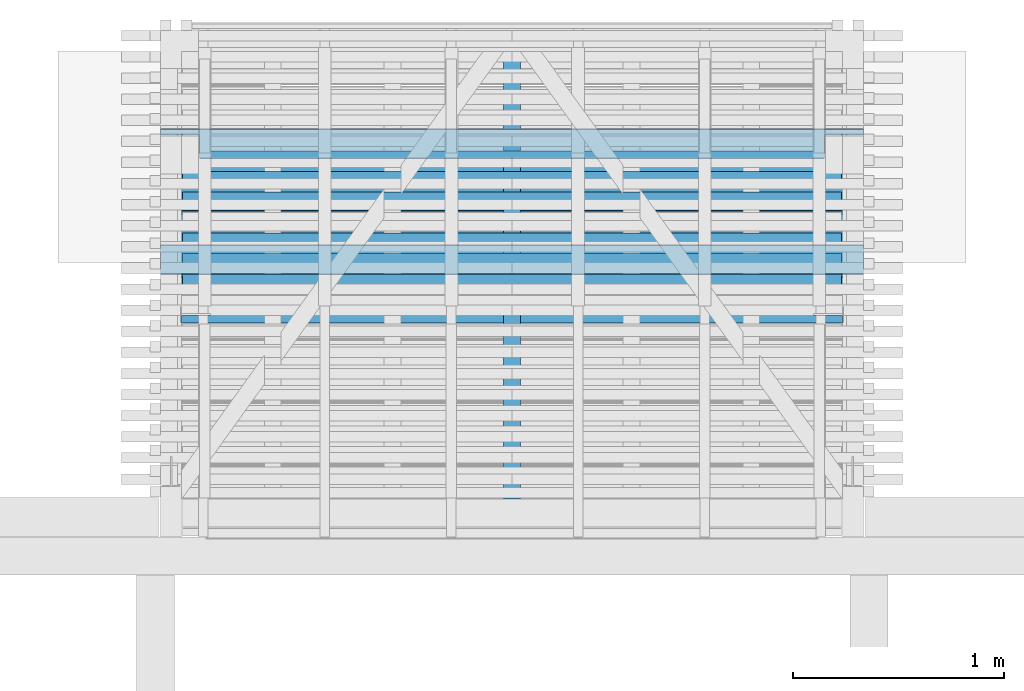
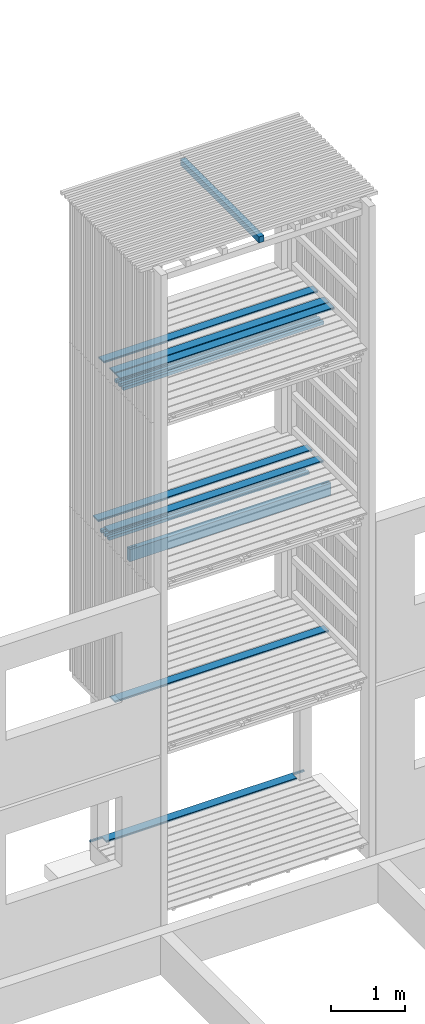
# One storey, part 45 of 182: 15 beams.
"""IFC2X3 building model written with IfcOpenShell, lengths in metres."""

from ifc_helpers import new_model, si_unit, frame, origin, place, context, project, spatial, faceted_brep, element, save


model = new_model("IFC2X3")

# Units and contexts
model_context = context("Model", 3, precision=1e-06, world=origin())
ifc_project = project(units=[si_unit("LENGTHUNIT", "METRE"), si_unit("PLANEANGLEUNIT", "RADIAN")], contexts=[model_context])

# Site, building, storey
site = spatial("IfcSite", under=ifc_project, CompositionType="ELEMENT")
building = spatial("IfcBuilding", under=site, CompositionType="ELEMENT")
storey = spatial("IfcBuildingStorey", under=building, Name="vs", CompositionType="ELEMENT", Elevation=-0.85)

# Beams
placement = place(None, origin())
beam_1_placement = place(placement, frame((16.549197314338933, 11.886327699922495, 7.86739999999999), z_axis=(0.0, 0.0, 1.0), x_axis=(-1.0, 0.0, 0.0)))
element("IfcBeam", 1, at=beam_1_placement, inside=storey, Name="Bardage", context=model_context, shape_type="Brep", body=[
    faceted_brep([(3.120000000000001, 0.024999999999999, -0.024999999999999), (3.120000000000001, 0.024999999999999, 0.025000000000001), (3.120000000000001, -0.024999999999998, 0.025000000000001), (3.120000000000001, -0.024999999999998, -0.024999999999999), (-3e-15, -0.025000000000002, -0.024999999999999), (-3e-15, -0.025000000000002, 0.025000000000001), (-3e-15, 0.024999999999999, 0.025000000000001), (-3e-15, 0.024999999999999, -0.024999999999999), (-3e-15, 0.024999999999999, -0.024999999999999), (-3e-15, 0.024999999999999, 0.025000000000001), (3.120000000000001, 0.024999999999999, 0.025000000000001), (3.120000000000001, 0.024999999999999, -0.024999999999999), (-3e-15, 0.024999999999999, 0.025000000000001), (-3e-15, -0.025000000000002, 0.025000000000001), (3.120000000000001, -0.024999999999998, 0.025000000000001), (3.120000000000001, 0.024999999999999, 0.025000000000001), (-3e-15, -0.025000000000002, 0.025000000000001), (-3e-15, -0.025000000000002, -0.024999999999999), (3.120000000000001, -0.024999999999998, -0.024999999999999), (3.120000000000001, -0.024999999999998, 0.025000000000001), (-3e-15, -0.025000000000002, -0.024999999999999), (-3e-15, 0.024999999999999, -0.024999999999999), (3.120000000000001, 0.024999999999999, -0.024999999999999), (3.120000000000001, -0.024999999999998, -0.024999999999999)], [[[0, 1, 2, 3]], [[4, 5, 6, 7]], [[8, 9, 10, 11]], [[12, 13, 14, 15]], [[16, 17, 18, 19]], [[20, 21, 22, 23]]]),
])
beam_2_placement = place(placement, frame((16.549197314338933, 12.080494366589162, 5.167399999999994), z_axis=(0.0, 0.0, 1.0), x_axis=(-1.0, 0.0, 0.0)))
element("IfcBeam", 2, at=beam_2_placement, inside=storey, Name="Bardage", context=model_context, shape_type="Brep", body=[
    faceted_brep([(3.120000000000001, 0.024999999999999, -0.024999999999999), (3.120000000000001, 0.024999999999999, 0.024999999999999), (3.120000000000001, -0.024999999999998, 0.024999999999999), (3.120000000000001, -0.024999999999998, -0.024999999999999), (-3e-15, -0.025000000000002, -0.024999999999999), (-3e-15, -0.025000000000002, 0.024999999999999), (-3e-15, 0.024999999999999, 0.024999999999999), (-3e-15, 0.024999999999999, -0.024999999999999), (-3e-15, 0.024999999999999, -0.024999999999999), (-3e-15, 0.024999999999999, 0.024999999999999), (3.120000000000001, 0.024999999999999, 0.024999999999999), (3.120000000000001, 0.024999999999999, -0.024999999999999), (-3e-15, 0.024999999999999, 0.024999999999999), (-3e-15, -0.025000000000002, 0.024999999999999), (3.120000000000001, -0.024999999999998, 0.024999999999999), (3.120000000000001, 0.024999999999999, 0.024999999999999), (-3e-15, -0.025000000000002, 0.024999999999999), (-3e-15, -0.025000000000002, -0.024999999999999), (3.120000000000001, -0.024999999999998, -0.024999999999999), (3.120000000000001, -0.024999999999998, 0.024999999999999), (-3e-15, -0.025000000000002, -0.024999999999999), (-3e-15, 0.024999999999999, -0.024999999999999), (3.120000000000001, 0.024999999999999, -0.024999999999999), (3.120000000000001, -0.024999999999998, -0.024999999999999)], [[[0, 1, 2, 3]], [[4, 5, 6, 7]], [[8, 9, 10, 11]], [[12, 13, 14, 15]], [[16, 17, 18, 19]], [[20, 21, 22, 23]]]),
])
beam_3_placement = place(placement, frame((16.654197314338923, 11.784577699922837, 2.733499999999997), z_axis=(0.0, 0.0, 1.0), x_axis=(-1.0, -8e-15, 0.0)))
element("IfcBeam", 3, at=beam_3_placement, inside=storey, Name="Caillebotis", context=model_context, shape_type="Brep", body=[
    faceted_brep([(3.329999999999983, -0.072500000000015, -0.0135), (3.329999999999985, 0.072499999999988, -0.0135), (3.329999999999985, 0.072499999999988, 0.0085), (3.329999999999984, 0.067499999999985, 0.0135), (3.329999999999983, -0.067500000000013, 0.0135), (3.329999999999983, -0.072500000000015, 0.008500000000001), (-1.5e-14, -0.072499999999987, 0.008500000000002), (-1.5e-14, -0.067499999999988, 0.0135), (-1.4e-14, 0.067500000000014, 0.013500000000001), (-1.4e-14, 0.072500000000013, 0.0085), (-1.4e-14, 0.072500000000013, -0.0135), (-1.5e-14, -0.072499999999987, -0.0135), (3.329999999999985, 0.072499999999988, 0.0085), (3.329999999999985, 0.072499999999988, -0.0135), (-1.4e-14, 0.072500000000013, -0.0135), (-1.4e-14, 0.072500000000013, 0.0085), (3.329999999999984, 0.067499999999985, 0.0135), (3.329999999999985, 0.072499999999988, 0.0085), (-1.4e-14, 0.072500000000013, 0.0085), (-1.4e-14, 0.067500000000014, 0.013500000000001), (3.329999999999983, -0.067500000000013, 0.0135), (3.329999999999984, 0.067499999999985, 0.0135), (-1.4e-14, 0.067500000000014, 0.013500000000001), (-1.5e-14, -0.067499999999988, 0.0135), (3.329999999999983, -0.072500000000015, 0.008500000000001), (3.329999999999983, -0.067500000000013, 0.0135), (-1.5e-14, -0.067499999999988, 0.0135), (-1.5e-14, -0.072499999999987, 0.008500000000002), (3.329999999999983, -0.072500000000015, -0.0135), (3.329999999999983, -0.072500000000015, 0.008500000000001), (-1.5e-14, -0.072499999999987, 0.008500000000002), (-1.5e-14, -0.072499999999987, -0.0135), (-1.4e-14, 0.072500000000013, -0.0135), (3.329999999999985, 0.072499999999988, -0.0135), (3.329999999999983, -0.072500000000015, -0.0135), (-1.5e-14, -0.072499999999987, -0.0135)], [[[0, 1, 2, 3, 4, 5]], [[6, 7, 8, 9, 10, 11]], [[12, 13, 14, 15]], [[16, 17, 18, 19]], [[20, 21, 22, 23]], [[24, 25, 26, 27]], [[28, 29, 30, 31]], [[32, 33, 34, 35]]]),
])
beam_4_placement = place(placement, frame((16.654197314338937, 11.784577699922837, 8.13349999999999), z_axis=(0.0, 0.0, 1.0), x_axis=(-1.0, -8e-15, 0.0)))
element("IfcBeam", 4, at=beam_4_placement, inside=storey, Name="Caillebotis", context=model_context, shape_type="Brep", body=[
    faceted_brep([(3.329999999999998, -0.072500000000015, -0.013500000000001), (3.329999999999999, 0.072499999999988, -0.013500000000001), (3.329999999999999, 0.072499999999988, 0.008499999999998), (3.329999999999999, 0.067499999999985, 0.013499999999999), (3.329999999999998, -0.067500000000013, 0.013499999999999), (3.329999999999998, -0.072500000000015, 0.0085), (-1e-15, -0.072499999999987, 0.0085), (-1e-15, -0.067499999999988, 0.013499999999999), (1e-15, 0.067500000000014, 0.013499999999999), (1e-15, 0.072500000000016, 0.008499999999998), (1e-15, 0.072500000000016, -0.013500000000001), (-1e-15, -0.072499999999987, -0.013500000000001), (3.329999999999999, 0.072499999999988, 0.008499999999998), (3.329999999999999, 0.072499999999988, -0.013500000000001), (1e-15, 0.072500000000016, -0.013500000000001), (1e-15, 0.072500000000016, 0.008499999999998), (3.329999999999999, 0.067499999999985, 0.013499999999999), (3.329999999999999, 0.072499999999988, 0.008499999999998), (1e-15, 0.072500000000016, 0.008499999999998), (1e-15, 0.067500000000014, 0.013499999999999), (3.329999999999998, -0.067500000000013, 0.013499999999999), (3.329999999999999, 0.067499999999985, 0.013499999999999), (1e-15, 0.067500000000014, 0.013499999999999), (-1e-15, -0.067499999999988, 0.013499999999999), (3.329999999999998, -0.072500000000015, 0.0085), (3.329999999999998, -0.067500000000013, 0.013499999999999), (-1e-15, -0.067499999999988, 0.013499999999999), (-1e-15, -0.072499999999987, 0.0085), (3.329999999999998, -0.072500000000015, -0.013500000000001), (3.329999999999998, -0.072500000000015, 0.0085), (-1e-15, -0.072499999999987, 0.0085), (-1e-15, -0.072499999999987, -0.013500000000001), (1e-15, 0.072500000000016, -0.013500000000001), (3.329999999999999, 0.072499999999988, -0.013500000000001), (3.329999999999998, -0.072500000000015, -0.013500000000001), (-1e-15, -0.072499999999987, -0.013500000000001)], [[[0, 1, 2, 3, 4, 5]], [[6, 7, 8, 9, 10, 11]], [[12, 13, 14, 15]], [[16, 17, 18, 19]], [[20, 21, 22, 23]], [[24, 25, 26, 27]], [[28, 29, 30, 31]], [[32, 33, 34, 35]]]),
])
beam_5_placement = place(placement, frame((16.55419731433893, 11.5250776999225, 5.239999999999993), z_axis=(0.0, 0.0, 1.0), x_axis=(-1.0, -2e-15, 0.0)))
element("IfcBeam", 5, at=beam_5_placement, inside=storey, Name="Sommier", context=model_context, shape_type="Brep", body=[
    faceted_brep([(0.137000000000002, -0.003999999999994, -0.100000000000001), (1e-15, -0.003999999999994, -0.100000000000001), (1e-15, -0.003999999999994, 0.100000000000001), (0.137000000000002, -0.003999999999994, 0.100000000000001), (0.137000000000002, 0.004000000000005, -0.100000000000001), (0.137000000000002, -0.003999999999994, -0.100000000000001), (0.137000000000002, -0.003999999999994, 0.100000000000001), (0.137000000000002, 0.004000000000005, 0.100000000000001), (1e-15, 0.004000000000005, -0.100000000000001), (0.137000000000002, 0.004000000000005, -0.100000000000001), (0.137000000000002, 0.004000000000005, 0.100000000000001), (1e-15, 0.004000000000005, 0.100000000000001), (1e-15, -0.003999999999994, 0.100000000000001), (1e-15, -0.003999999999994, -0.100000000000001), (1e-15, -0.039999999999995, -0.100000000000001), (1e-15, -0.039999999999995, 0.100000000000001), (1e-15, 0.040000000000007, 0.100000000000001), (1e-15, 0.040000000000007, -0.100000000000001), (1e-15, 0.004000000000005, -0.100000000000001), (1e-15, 0.004000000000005, 0.100000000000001), (2.992999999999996, 0.004000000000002, 0.100000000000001), (2.992999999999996, 0.004000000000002, -0.100000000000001), (3.129999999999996, 0.004000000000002, -0.1), (3.129999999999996, 0.004000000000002, 0.100000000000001), (2.992999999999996, -0.004000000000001, 0.100000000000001), (2.992999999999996, -0.004000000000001, -0.100000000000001), (2.992999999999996, 0.004000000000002, -0.100000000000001), (2.992999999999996, 0.004000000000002, 0.100000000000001), (3.129999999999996, -0.004000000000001, 0.100000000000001), (3.129999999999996, -0.004000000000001, -0.100000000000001), (2.992999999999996, -0.004000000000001, -0.100000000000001), (2.992999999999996, -0.004000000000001, 0.100000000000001), (3.129999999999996, 0.004000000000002, 0.100000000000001), (3.129999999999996, 0.004000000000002, -0.1), (3.129999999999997, 0.04, -0.1), (3.129999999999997, 0.04, 0.100000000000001), (3.129999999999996, -0.040000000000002, 0.100000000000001), (3.129999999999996, -0.040000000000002, -0.1), (3.129999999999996, -0.004000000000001, -0.100000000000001), (3.129999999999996, -0.004000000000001, 0.100000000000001), (2.992999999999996, 0.004000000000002, 0.100000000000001), (3.129999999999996, 0.004000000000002, 0.100000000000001), (3.129999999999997, 0.04, 0.100000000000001), (1e-15, 0.040000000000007, 0.100000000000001), (1e-15, 0.004000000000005, 0.100000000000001), (0.137000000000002, 0.004000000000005, 0.100000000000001), (0.137000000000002, -0.003999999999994, 0.100000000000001), (1e-15, -0.003999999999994, 0.100000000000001), (1e-15, -0.039999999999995, 0.100000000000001), (3.129999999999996, -0.040000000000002, 0.100000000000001), (3.129999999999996, -0.004000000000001, 0.100000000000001), (2.992999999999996, -0.004000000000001, 0.100000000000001), (1e-15, -0.039999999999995, -0.100000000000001), (1e-15, -0.003999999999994, -0.100000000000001), (0.137000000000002, -0.003999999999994, -0.100000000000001), (0.137000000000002, 0.004000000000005, -0.100000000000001), (1e-15, 0.004000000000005, -0.100000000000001), (1e-15, 0.040000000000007, -0.100000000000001), (3.129999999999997, 0.04, -0.1), (3.129999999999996, 0.004000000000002, -0.1), (2.992999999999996, 0.004000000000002, -0.100000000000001), (2.992999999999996, -0.004000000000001, -0.100000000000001), (3.129999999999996, -0.004000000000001, -0.100000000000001), (3.129999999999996, -0.040000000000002, -0.1), (1e-15, -0.039999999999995, -0.100000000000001), (3.129999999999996, -0.040000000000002, -0.1), (3.129999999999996, -0.040000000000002, 0.100000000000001), (1e-15, -0.039999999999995, 0.100000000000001), (1e-15, 0.040000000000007, 0.100000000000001), (3.129999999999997, 0.04, 0.100000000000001), (3.129999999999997, 0.04, -0.1), (1e-15, 0.040000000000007, -0.100000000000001)], [[[0, 1, 2, 3]], [[4, 5, 6, 7]], [[8, 9, 10, 11]], [[12, 13, 14, 15]], [[16, 17, 18, 19]], [[20, 21, 22, 23]], [[24, 25, 26, 27]], [[28, 29, 30, 31]], [[32, 33, 34, 35]], [[36, 37, 38, 39]], [[40, 41, 42, 43, 44, 45, 46, 47, 48, 49, 50, 51]], [[52, 53, 54, 55, 56, 57, 58, 59, 60, 61, 62, 63]], [[64, 65, 66, 67]], [[68, 69, 70, 71]]]),
])
beam_6_placement = place(placement, frame((16.654197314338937, 12.084577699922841, 8.133499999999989), z_axis=(0.0, 0.0, 1.0), x_axis=(-1.0, -1e-14, 0.0)))
element("IfcBeam", 6, at=beam_6_placement, inside=storey, Name="Caillebotis", context=model_context, shape_type="Brep", body=[
    faceted_brep([(3.329999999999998, -0.072500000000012, -0.013499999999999), (3.329999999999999, 0.072499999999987, -0.013499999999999), (3.329999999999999, 0.072499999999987, 0.0085), (3.329999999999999, 0.067499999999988, 0.013500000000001), (3.329999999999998, -0.067500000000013, 0.013500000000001), (3.329999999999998, -0.072500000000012, 0.008500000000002), (-1e-15, -0.07249999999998, 0.008500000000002), (-1e-15, -0.067499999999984, 0.013500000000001), (1e-15, 0.067500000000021, 0.013500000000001), (1e-15, 0.072500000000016, 0.0085), (1e-15, 0.072500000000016, -0.013499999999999), (-1e-15, -0.07249999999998, -0.013499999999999), (3.329999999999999, 0.072499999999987, 0.0085), (3.329999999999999, 0.072499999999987, -0.013499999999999), (1e-15, 0.072500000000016, -0.013499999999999), (1e-15, 0.072500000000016, 0.0085), (3.329999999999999, 0.067499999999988, 0.013500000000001), (3.329999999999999, 0.072499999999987, 0.0085), (1e-15, 0.072500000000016, 0.0085), (1e-15, 0.067500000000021, 0.013500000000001), (3.329999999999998, -0.067500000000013, 0.013500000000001), (3.329999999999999, 0.067499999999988, 0.013500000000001), (1e-15, 0.067500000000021, 0.013500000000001), (-1e-15, -0.067499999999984, 0.013500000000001), (3.329999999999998, -0.072500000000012, 0.008500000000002), (3.329999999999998, -0.067500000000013, 0.013500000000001), (-1e-15, -0.067499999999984, 0.013500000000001), (-1e-15, -0.07249999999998, 0.008500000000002), (3.329999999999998, -0.072500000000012, -0.013499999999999), (3.329999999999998, -0.072500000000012, 0.008500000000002), (-1e-15, -0.07249999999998, 0.008500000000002), (-1e-15, -0.07249999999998, -0.013499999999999), (1e-15, 0.072500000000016, -0.013499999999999), (3.329999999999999, 0.072499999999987, -0.013499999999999), (3.329999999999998, -0.072500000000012, -0.013499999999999), (-1e-15, -0.07249999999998, -0.013499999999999)], [[[0, 1, 2, 3, 4, 5]], [[6, 7, 8, 9, 10, 11]], [[12, 13, 14, 15]], [[16, 17, 18, 19]], [[20, 21, 22, 23]], [[24, 25, 26, 27]], [[28, 29, 30, 31]], [[32, 33, 34, 35]]]),
])
beam_7_placement = place(placement, frame((16.654197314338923, 12.334577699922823, 0.033500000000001), z_axis=(0.0, 0.0, 1.0), x_axis=(-1.0, 0.0, 0.0)))
element("IfcBeam", 7, at=beam_7_placement, inside=storey, Name="Caillebotis", context=model_context, shape_type="Brep", body=[
    faceted_brep([(0.0, -0.072500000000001, -0.013500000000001), (0.0, -0.072500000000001, 0.008500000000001), (0.0, -0.067500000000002, 0.0135), (0.0, -0.040499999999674, 0.0135), (0.0, -0.040499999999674, -0.013500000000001), (3.329999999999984, -0.067500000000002, 0.0135), (3.329999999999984, -0.040499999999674, 0.0135), (3.144999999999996, -0.040499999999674, 0.0135), (3.144999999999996, 0.067500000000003, 0.0135), (0.184999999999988, 0.067499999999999, 0.0135), (0.184999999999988, -0.040499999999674, 0.0135), (0.0, -0.040499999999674, 0.0135), (0.0, -0.067500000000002, 0.0135), (0.184999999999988, -0.040499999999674, 0.0135), (0.184999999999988, 0.067499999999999, 0.0135), (0.184999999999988, 0.072499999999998, 0.0085), (0.184999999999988, 0.072499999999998, -0.013500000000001), (0.184999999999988, -0.040499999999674, -0.013500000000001), (3.329999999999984, -0.072499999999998, 0.008500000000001), (3.329999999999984, -0.072499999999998, -0.013500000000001), (3.329999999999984, -0.040499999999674, -0.013500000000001), (3.329999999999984, -0.040499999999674, 0.0135), (3.329999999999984, -0.067500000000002, 0.0135), (3.144999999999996, 0.072499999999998, 0.0085), (3.144999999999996, 0.067500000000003, 0.0135), (3.144999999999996, -0.040499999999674, 0.0135), (3.144999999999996, -0.040499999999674, -0.013500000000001), (3.144999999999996, 0.072500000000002, -0.013500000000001), (3.144999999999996, -0.040499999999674, -0.013500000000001), (3.144999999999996, -0.040499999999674, 0.0135), (3.329999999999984, -0.040499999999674, 0.0135), (3.329999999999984, -0.040499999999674, -0.013500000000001), (0.184999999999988, 0.072499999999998, -0.013500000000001), (0.184999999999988, 0.072499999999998, 0.0085), (3.144999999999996, 0.072499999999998, 0.0085), (3.144999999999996, 0.072500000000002, -0.013500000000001), (0.184999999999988, 0.072499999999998, 0.0085), (0.184999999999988, 0.067499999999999, 0.0135), (3.144999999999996, 0.067500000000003, 0.0135), (3.144999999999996, 0.072499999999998, 0.0085), (3.329999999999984, -0.072499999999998, 0.008500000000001), (3.329999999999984, -0.067500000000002, 0.0135), (0.0, -0.067500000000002, 0.0135), (0.0, -0.072500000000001, 0.008500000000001), (3.329999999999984, -0.072499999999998, -0.013500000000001), (3.329999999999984, -0.072499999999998, 0.008500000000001), (0.0, -0.072500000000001, 0.008500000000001), (0.0, -0.072500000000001, -0.013500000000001), (0.184999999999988, -0.040499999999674, -0.013500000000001), (0.184999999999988, 0.072499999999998, -0.013500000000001), (3.144999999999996, 0.072500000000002, -0.013500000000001), (3.144999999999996, -0.040499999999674, -0.013500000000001), (3.329999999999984, -0.040499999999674, -0.013500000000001), (3.329999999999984, -0.072499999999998, -0.013500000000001), (0.0, -0.072500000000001, -0.013500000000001), (0.0, -0.040499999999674, -0.013500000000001), (0.0, -0.040499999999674, 0.0135), (0.184999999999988, -0.040499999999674, 0.0135), (0.184999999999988, -0.040499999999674, -0.013500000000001), (0.0, -0.040499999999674, -0.013500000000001)], [[[0, 1, 2, 3, 4]], [[5, 6, 7, 8, 9, 10, 11, 12]], [[13, 14, 15, 16, 17]], [[18, 19, 20, 21, 22]], [[23, 24, 25, 26, 27]], [[28, 29, 30, 31]], [[32, 33, 34, 35]], [[36, 37, 38, 39]], [[40, 41, 42, 43]], [[44, 45, 46, 47]], [[48, 49, 50, 51, 52, 53, 54, 55]], [[56, 57, 58, 59]]]),
])
beam_8_placement = place(placement, frame((14.989197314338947, 10.650077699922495, 10.404999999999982), z_axis=(0.0, 0.0, 1.0), x_axis=(0.0, 1.0, 0.0)))
element("IfcBeam", 8, at=beam_8_placement, inside=storey, Name="Support bardage", context=model_context, shape_type="Brep", body=[
    faceted_brep([(2.120000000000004, -0.039999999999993, 0.050000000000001), (2.120000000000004, 0.040000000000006, 0.050000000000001), (3e-15, 0.040000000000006, 0.050000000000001), (3e-15, -0.039999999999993, 0.050000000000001), (3e-15, 0.040000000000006, 0.050000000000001), (2.120000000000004, 0.040000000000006, 0.050000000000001), (2.120000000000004, 0.040000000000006, -0.050000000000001), (3e-15, 0.040000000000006, -0.050000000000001), (2.120000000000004, 0.040000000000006, 0.050000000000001), (2.120000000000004, -0.039999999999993, 0.050000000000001), (2.120000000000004, -0.039999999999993, -0.050000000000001), (2.120000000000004, 0.040000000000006, -0.050000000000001), (2.120000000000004, -0.039999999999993, -0.050000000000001), (2.120000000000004, -0.039999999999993, 0.050000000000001), (3e-15, -0.039999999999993, 0.050000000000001), (3e-15, -0.039999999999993, -0.050000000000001), (3e-15, 0.040000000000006, -0.050000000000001), (2.120000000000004, 0.040000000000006, -0.050000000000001), (2.120000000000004, -0.039999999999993, -0.050000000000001), (3e-15, -0.039999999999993, -0.050000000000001), (3e-15, 0.040000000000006, 0.050000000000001), (3e-15, 0.040000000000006, -0.050000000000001), (3e-15, -0.039999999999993, -0.050000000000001), (3e-15, -0.039999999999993, 0.050000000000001)], [[[0, 1, 2, 3]], [[4, 5, 6, 7]], [[8, 9, 10, 11]], [[12, 13, 14, 15]], [[16, 17, 18, 19]], [[20, 21, 22, 23]]]),
])
beam_9_placement = place(placement, frame((16.549197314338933, 11.789244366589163, 7.86739999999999), z_axis=(0.0, 0.0, 1.0), x_axis=(-1.0, 0.0, 0.0)))
element("IfcBeam", 9, at=beam_9_placement, inside=storey, Name="Bardage", context=model_context, shape_type="Brep", body=[
    faceted_brep([(3.120000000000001, 0.025000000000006, -0.024999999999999), (3.120000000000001, 0.025000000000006, 0.025000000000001), (3.120000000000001, -0.024999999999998, 0.025000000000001), (3.120000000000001, -0.024999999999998, -0.024999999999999), (-3e-15, -0.024999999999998, -0.024999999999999), (-3e-15, -0.024999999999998, 0.025000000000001), (-3e-15, 0.025000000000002, 0.025000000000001), (-3e-15, 0.025000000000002, -0.024999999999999), (-3e-15, 0.025000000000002, -0.024999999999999), (-3e-15, 0.025000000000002, 0.025000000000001), (3.120000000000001, 0.025000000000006, 0.025000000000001), (3.120000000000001, 0.025000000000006, -0.024999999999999), (-3e-15, 0.025000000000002, 0.025000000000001), (-3e-15, -0.024999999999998, 0.025000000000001), (3.120000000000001, -0.024999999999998, 0.025000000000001), (3.120000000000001, 0.025000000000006, 0.025000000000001), (-3e-15, -0.024999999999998, 0.025000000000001), (-3e-15, -0.024999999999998, -0.024999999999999), (3.120000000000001, -0.024999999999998, -0.024999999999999), (3.120000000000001, -0.024999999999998, 0.025000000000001), (-3e-15, -0.024999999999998, -0.024999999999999), (-3e-15, 0.025000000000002, -0.024999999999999), (3.120000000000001, 0.025000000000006, -0.024999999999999), (3.120000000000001, -0.024999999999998, -0.024999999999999)], [[[0, 1, 2, 3]], [[4, 5, 6, 7]], [[8, 9, 10, 11]], [[12, 13, 14, 15]], [[16, 17, 18, 19]], [[20, 21, 22, 23]]]),
])
beam_10_placement = place(placement, frame((16.654197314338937, 12.23457769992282, 5.433499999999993), z_axis=(0.0, 0.0, 1.0), x_axis=(-1.0, 0.0, 0.0)))
element("IfcBeam", 10, at=beam_10_placement, inside=storey, Name="Caillebotis", context=model_context, shape_type="Brep", body=[
    faceted_brep([(3.329999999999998, -0.072499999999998, -0.0135), (3.329999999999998, 0.072499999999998, -0.0135), (3.329999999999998, 0.072499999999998, 0.0085), (3.329999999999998, 0.067500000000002, 0.0135), (3.329999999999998, -0.067500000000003, 0.0135), (3.329999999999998, -0.072499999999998, 0.008500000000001), (0.0, -0.072500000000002, 0.008500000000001), (0.0, -0.067500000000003, 0.0135), (0.0, 0.067499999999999, 0.0135), (0.0, 0.072499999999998, 0.0085), (0.0, 0.072499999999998, -0.0135), (0.0, -0.072500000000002, -0.0135), (3.329999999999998, 0.072499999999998, 0.0085), (3.329999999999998, 0.072499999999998, -0.0135), (0.0, 0.072499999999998, -0.0135), (0.0, 0.072499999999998, 0.0085), (3.329999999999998, 0.067500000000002, 0.0135), (3.329999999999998, 0.072499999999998, 0.0085), (0.0, 0.072499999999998, 0.0085), (0.0, 0.067499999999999, 0.0135), (3.329999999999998, -0.067500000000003, 0.0135), (3.329999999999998, 0.067500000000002, 0.0135), (0.0, 0.067499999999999, 0.0135), (0.0, -0.067500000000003, 0.0135), (3.329999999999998, -0.072499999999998, 0.008500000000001), (3.329999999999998, -0.067500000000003, 0.0135), (0.0, -0.067500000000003, 0.0135), (0.0, -0.072500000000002, 0.008500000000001), (3.329999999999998, -0.072499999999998, -0.0135), (3.329999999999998, -0.072499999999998, 0.008500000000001), (0.0, -0.072500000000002, 0.008500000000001), (0.0, -0.072500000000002, -0.0135), (0.0, 0.072499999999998, -0.0135), (3.329999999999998, 0.072499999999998, -0.0135), (3.329999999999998, -0.072499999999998, -0.0135), (0.0, -0.072500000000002, -0.0135)], [[[0, 1, 2, 3, 4, 5]], [[6, 7, 8, 9, 10, 11]], [[12, 13, 14, 15]], [[16, 17, 18, 19]], [[20, 21, 22, 23]], [[24, 25, 26, 27]], [[28, 29, 30, 31]], [[32, 33, 34, 35]]]),
])
beam_11_placement = place(placement, frame((16.549197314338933, 12.27466103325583, 5.167399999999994), z_axis=(0.0, 0.0, 1.0), x_axis=(-1.0, 0.0, 0.0)))
element("IfcBeam", 11, at=beam_11_placement, inside=storey, Name="Bardage", context=model_context, shape_type="Brep", body=[
    faceted_brep([(3.120000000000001, 0.024999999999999, 0.024999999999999), (3.120000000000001, -0.024999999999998, 0.024999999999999), (3.120000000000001, -0.024999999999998, -0.024999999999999), (3.120000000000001, 0.024999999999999, -0.024999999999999), (-3e-15, -0.025000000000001, 0.024999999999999), (-3e-15, 0.024999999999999, 0.024999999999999), (-3e-15, 0.024999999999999, -0.024999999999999), (-3e-15, -0.025000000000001, -0.024999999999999), (3.120000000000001, 0.024999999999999, -0.024999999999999), (3.120000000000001, -0.024999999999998, -0.024999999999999), (-3e-15, -0.025000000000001, -0.024999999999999), (-3e-15, 0.024999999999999, -0.024999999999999), (-3e-15, -0.025000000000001, -0.024999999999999), (3.120000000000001, -0.024999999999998, -0.024999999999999), (3.120000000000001, -0.024999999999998, 0.024999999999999), (-3e-15, -0.025000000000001, 0.024999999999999), (-3e-15, -0.025000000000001, 0.024999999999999), (3.120000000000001, -0.024999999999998, 0.024999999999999), (3.120000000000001, 0.024999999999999, 0.024999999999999), (-3e-15, 0.024999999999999, 0.024999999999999), (-3e-15, 0.024999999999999, 0.024999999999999), (3.120000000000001, 0.024999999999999, 0.024999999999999), (3.120000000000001, 0.024999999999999, -0.024999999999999), (-3e-15, 0.024999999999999, -0.024999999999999)], [[[0, 1, 2, 3]], [[4, 5, 6, 7]], [[8, 9, 10, 11]], [[12, 13, 14, 15]], [[16, 17, 18, 19]], [[20, 21, 22, 23]]]),
])
beam_12_placement = place(placement, frame((16.549197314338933, 11.692161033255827, 7.86739999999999), z_axis=(0.0, 0.0, 1.0), x_axis=(-1.0, 0.0, 0.0)))
element("IfcBeam", 12, at=beam_12_placement, inside=storey, Name="Bardage", context=model_context, shape_type="Brep", body=[
    faceted_brep([(3.120000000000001, 0.024999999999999, -0.024999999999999), (3.120000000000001, 0.024999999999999, 0.025000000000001), (3.120000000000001, -0.024999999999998, 0.025000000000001), (3.120000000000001, -0.024999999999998, -0.024999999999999), (-3e-15, -0.025000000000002, -0.024999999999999), (-3e-15, -0.025000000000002, 0.025000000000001), (-3e-15, 0.024999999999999, 0.025000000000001), (-3e-15, 0.024999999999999, -0.024999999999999), (-3e-15, 0.024999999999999, -0.024999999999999), (-3e-15, 0.024999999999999, 0.025000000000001), (3.120000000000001, 0.024999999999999, 0.025000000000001), (3.120000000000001, 0.024999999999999, -0.024999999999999), (-3e-15, 0.024999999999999, 0.025000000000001), (-3e-15, -0.025000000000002, 0.025000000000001), (3.120000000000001, -0.024999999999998, 0.025000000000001), (3.120000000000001, 0.024999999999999, 0.025000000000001), (-3e-15, -0.025000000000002, 0.025000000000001), (-3e-15, -0.025000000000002, -0.024999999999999), (3.120000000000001, -0.024999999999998, -0.024999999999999), (3.120000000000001, -0.024999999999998, 0.025000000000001), (-3e-15, -0.025000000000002, -0.024999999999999), (-3e-15, 0.024999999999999, -0.024999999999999), (3.120000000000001, 0.024999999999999, -0.024999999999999), (3.120000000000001, -0.024999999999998, -0.024999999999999)], [[[0, 1, 2, 3]], [[4, 5, 6, 7]], [[8, 9, 10, 11]], [[12, 13, 14, 15]], [[16, 17, 18, 19]], [[20, 21, 22, 23]]]),
])
beam_13_placement = place(placement, frame((16.654197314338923, 11.934577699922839, 5.433499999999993), z_axis=(0.0, 0.0, 1.0), x_axis=(-1.0, -8e-15, 0.0)))
element("IfcBeam", 13, at=beam_13_placement, inside=storey, Name="Caillebotis", context=model_context, shape_type="Brep", body=[
    faceted_brep([(3.329999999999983, -0.072500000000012, -0.0135), (3.329999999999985, 0.072499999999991, -0.0135), (3.329999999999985, 0.072499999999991, 0.0085), (3.329999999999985, 0.067499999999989, 0.0135), (3.329999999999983, -0.067500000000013, 0.0135), (3.329999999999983, -0.072500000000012, 0.008500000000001), (-1.5e-14, -0.072499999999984, 0.008500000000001), (-1.5e-14, -0.067499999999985, 0.0135), (-1.4e-14, 0.067500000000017, 0.0135), (-1.4e-14, 0.072500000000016, 0.0085), (-1.4e-14, 0.072500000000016, -0.0135), (-1.5e-14, -0.072499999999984, -0.0135), (3.329999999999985, 0.072499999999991, 0.0085), (3.329999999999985, 0.072499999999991, -0.0135), (-1.4e-14, 0.072500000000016, -0.0135), (-1.4e-14, 0.072500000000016, 0.0085), (3.329999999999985, 0.067499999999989, 0.0135), (3.329999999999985, 0.072499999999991, 0.0085), (-1.4e-14, 0.072500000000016, 0.0085), (-1.4e-14, 0.067500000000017, 0.0135), (3.329999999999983, -0.067500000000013, 0.0135), (3.329999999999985, 0.067499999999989, 0.0135), (-1.4e-14, 0.067500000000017, 0.0135), (-1.5e-14, -0.067499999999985, 0.0135), (3.329999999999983, -0.072500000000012, 0.008500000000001), (3.329999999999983, -0.067500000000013, 0.0135), (-1.5e-14, -0.067499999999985, 0.0135), (-1.5e-14, -0.072499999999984, 0.008500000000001), (3.329999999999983, -0.072500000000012, -0.0135), (3.329999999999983, -0.072500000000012, 0.008500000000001), (-1.5e-14, -0.072499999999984, 0.008500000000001), (-1.5e-14, -0.072499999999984, -0.0135), (-1.4e-14, 0.072500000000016, -0.0135), (3.329999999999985, 0.072499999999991, -0.0135), (3.329999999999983, -0.072500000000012, -0.0135), (-1.5e-14, -0.072499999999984, -0.0135)], [[[0, 1, 2, 3, 4, 5]], [[6, 7, 8, 9, 10, 11]], [[12, 13, 14, 15]], [[16, 17, 18, 19]], [[20, 21, 22, 23]], [[24, 25, 26, 27]], [[28, 29, 30, 31]], [[32, 33, 34, 35]]]),
])
beam_14_placement = place(placement, frame((16.549197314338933, 12.1775776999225, 5.167399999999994), z_axis=(0.0, 0.0, 1.0), x_axis=(-1.0, -1e-15, 0.0)))
element("IfcBeam", 14, at=beam_14_placement, inside=storey, Name="Bardage", context=model_context, shape_type="Brep", body=[
    faceted_brep([(3.120000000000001, 0.024999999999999, 0.024999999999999), (3.120000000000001, -0.025000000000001, 0.024999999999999), (3.120000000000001, -0.025000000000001, -0.024999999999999), (3.120000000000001, 0.024999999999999, -0.024999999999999), (-3e-15, -0.024999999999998, 0.024999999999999), (-3e-15, 0.025000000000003, 0.024999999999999), (-3e-15, 0.025000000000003, -0.024999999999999), (-3e-15, -0.024999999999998, -0.024999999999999), (-3e-15, -0.024999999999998, -0.024999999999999), (-3e-15, 0.025000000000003, -0.024999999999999), (3.120000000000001, 0.024999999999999, -0.024999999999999), (3.120000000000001, -0.025000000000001, -0.024999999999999), (-3e-15, -0.024999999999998, -0.024999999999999), (3.120000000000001, -0.025000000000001, -0.024999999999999), (3.120000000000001, -0.025000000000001, 0.024999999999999), (-3e-15, -0.024999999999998, 0.024999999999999), (3.120000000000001, 0.024999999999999, 0.024999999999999), (3.120000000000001, 0.024999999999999, -0.024999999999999), (-3e-15, 0.025000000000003, -0.024999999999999), (-3e-15, 0.025000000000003, 0.024999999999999), (3.120000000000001, 0.024999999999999, 0.024999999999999), (-3e-15, 0.025000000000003, 0.024999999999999), (-3e-15, -0.024999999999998, 0.024999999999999), (3.120000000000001, -0.025000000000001, 0.024999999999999)], [[[0, 1, 2, 3]], [[4, 5, 6, 7]], [[8, 9, 10, 11]], [[12, 13, 14, 15]], [[16, 17, 18, 19]], [[20, 21, 22, 23]]]),
])
beam_15_placement = place(placement, frame((16.654197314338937, 11.634577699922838, 8.13349999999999), z_axis=(0.0, 0.0, 1.0), x_axis=(-1.0, -1e-14, 0.0)))
element("IfcBeam", 15, at=beam_15_placement, inside=storey, Name="Caillebotis", context=model_context, shape_type="Brep", body=[
    faceted_brep([(3.329999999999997, -0.072500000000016, -0.013500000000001), (3.329999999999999, 0.072499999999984, -0.013500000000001), (3.329999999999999, 0.072499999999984, 0.008499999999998), (3.329999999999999, 0.067499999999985, 0.013499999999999), (3.329999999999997, -0.067500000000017, 0.013499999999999), (3.329999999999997, -0.072500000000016, 0.0085), (-1e-15, -0.072499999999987, 0.0085), (-1e-15, -0.067499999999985, 0.013499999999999), (1e-15, 0.067500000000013, 0.013499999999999), (1e-15, 0.072500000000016, 0.008499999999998), (1e-15, 0.072500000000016, -0.013500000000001), (-1e-15, -0.072499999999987, -0.013500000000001), (3.329999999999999, 0.072499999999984, 0.008499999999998), (3.329999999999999, 0.072499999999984, -0.013500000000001), (1e-15, 0.072500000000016, -0.013500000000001), (1e-15, 0.072500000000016, 0.008499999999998), (3.329999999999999, 0.067499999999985, 0.013499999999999), (3.329999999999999, 0.072499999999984, 0.008499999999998), (1e-15, 0.072500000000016, 0.008499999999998), (1e-15, 0.067500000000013, 0.013499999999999), (3.329999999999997, -0.067500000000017, 0.013499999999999), (3.329999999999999, 0.067499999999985, 0.013499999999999), (1e-15, 0.067500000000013, 0.013499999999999), (-1e-15, -0.067499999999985, 0.013499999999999), (3.329999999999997, -0.072500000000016, 0.0085), (3.329999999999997, -0.067500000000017, 0.013499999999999), (-1e-15, -0.067499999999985, 0.013499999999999), (-1e-15, -0.072499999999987, 0.0085), (3.329999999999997, -0.072500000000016, -0.013500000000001), (3.329999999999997, -0.072500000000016, 0.0085), (-1e-15, -0.072499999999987, 0.0085), (-1e-15, -0.072499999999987, -0.013500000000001), (1e-15, 0.072500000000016, -0.013500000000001), (3.329999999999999, 0.072499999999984, -0.013500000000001), (3.329999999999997, -0.072500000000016, -0.013500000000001), (-1e-15, -0.072499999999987, -0.013500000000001)], [[[0, 1, 2, 3, 4, 5]], [[6, 7, 8, 9, 10, 11]], [[12, 13, 14, 15]], [[16, 17, 18, 19]], [[20, 21, 22, 23]], [[24, 25, 26, 27]], [[28, 29, 30, 31]], [[32, 33, 34, 35]]]),
])

save(model, "model.ifc")
